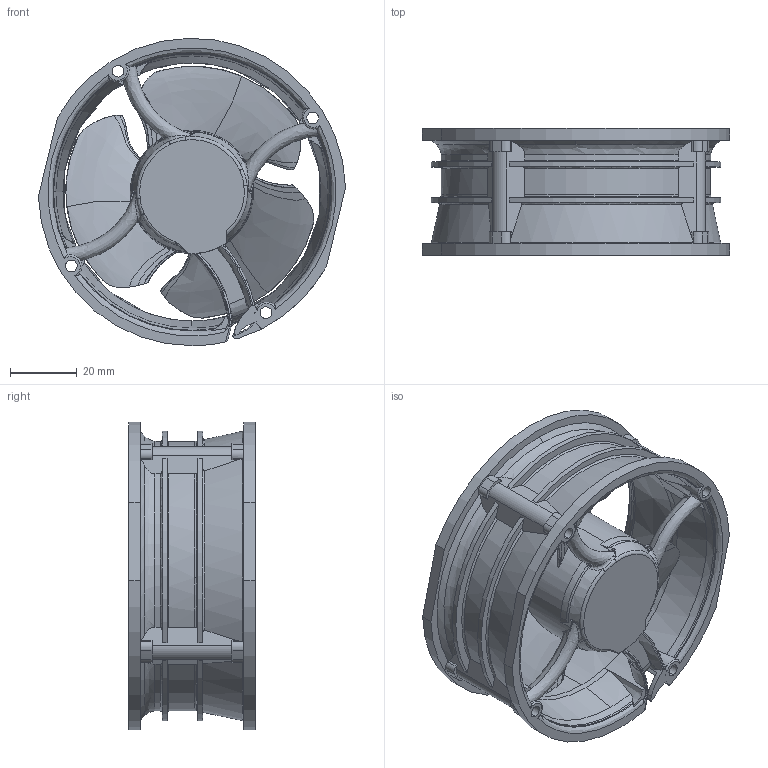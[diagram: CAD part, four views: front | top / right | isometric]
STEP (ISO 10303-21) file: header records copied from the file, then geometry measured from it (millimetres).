
FILE_DESCRIPTION (( 'STEP AP214' ), '1' );
FILE_NAME ('9238RF.STEP', '2017-01-30T09:40:19', ( '' ), ( '' ), 'SwSTEP 2.0', 'SolidWorks 2016', '' );
FILE_SCHEMA (( 'AUTOMOTIVE_DESIGN' ));
Length unit declared in the file: millimetre
Products named in the file (1): 9238RF
Bounding box: 92.21 x 38 x 92.24 mm (x, y, z)
Volume: 74667.4 mm3; surface area: 42129.9 mm2
Topology: 1 solids, 1 shells, 552 faces, 1591 edges, 1029 vertices
Faces by surface type: bspline 262, cylinder 138, plane 108, cone 42, torus 2
Entity records: 35079 total; most frequent: CARTESIAN_POINT 23027, ORIENTED_EDGE 3170, DIRECTION 1677, EDGE_CURVE 1585, VERTEX_POINT 1029, B_SPLINE_CURVE_WITH_KNOTS 797, AXIS2_PLACEMENT_3D 674, EDGE_LOOP 562
